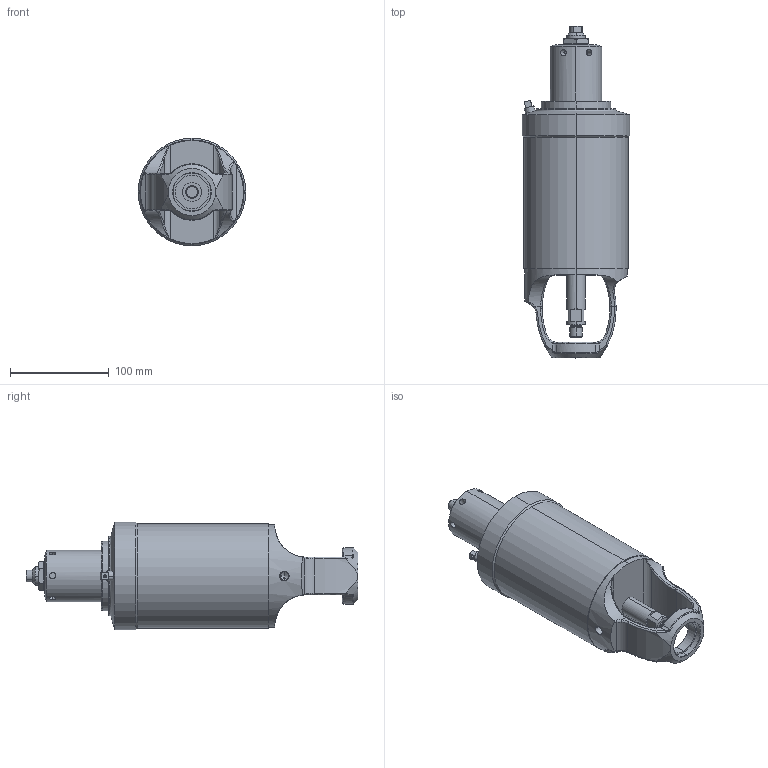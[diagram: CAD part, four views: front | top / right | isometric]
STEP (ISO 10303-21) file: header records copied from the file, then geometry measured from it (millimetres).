
FILE_DESCRIPTION (( 'STEP AP203' ), '1' );
FILE_NAME ('4in air to raise relief.STEP', '2010-08-30T19:35:19', ( 'kburns' ), ( 'Microsoft' ), 'SwSTEP 2.0', 'SolidWorks 2009', '' );
FILE_SCHEMA (( 'CONFIG_CONTROL_DESIGN' ));
Length unit declared in the file: millimetre
Products named in the file (1): 4in air to raise relief
Bounding box: 108.92 x 336.45 x 108.92 mm (x, y, z)
Volume: 1739030 mm3; surface area: 110398.5 mm2
Topology: 1 solids, 1 shells, 235 faces, 559 edges, 347 vertices
Faces by surface type: cylinder 78, plane 64, bspline 61, cone 32
Entity records: 22886 total; most frequent: CARTESIAN_POINT 17865, ORIENTED_EDGE 1114, DIRECTION 900, EDGE_CURVE 557, AXIS2_PLACEMENT_3D 364, VERTEX_POINT 347, EDGE_LOOP 264, ADVANCED_FACE 235
